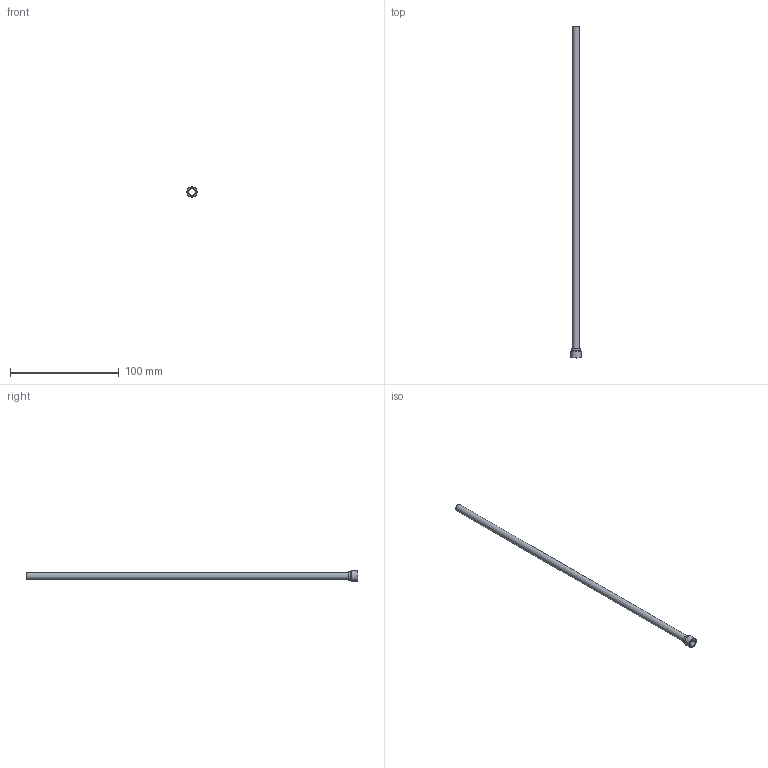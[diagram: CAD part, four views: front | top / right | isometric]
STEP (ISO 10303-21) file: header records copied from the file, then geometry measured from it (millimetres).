
FILE_DESCRIPTION(/* description */ (''),/* implementation_level */ '2;1');
FILE_NAME(/* name */ 'C:/Users/drich/Desktop/PT18-250-12 v1.step',/* time_stamp */ '2019-12-27T15:45:13-06:00',/* author */ (''),/* organization */ (''),/* preprocessor_version */ 'ST-DEVELOPER v18',/* originating_system */ 'Autodesk Translation Framework v8.12.0.6',/* authorisation */ '');
FILE_SCHEMA (('AUTOMOTIVE_DESIGN { 1 0 10303 214 3 1 1 }'));
Length unit declared in the file: inch
Products named in the file (1): PT18-250-12
Bounding box: 9.62 x 304.8 x 9.62 mm (x, y, z)
Volume: 1744.4 mm3; surface area: 11840.8 mm2
Topology: 1 solids, 1 shells, 19 faces, 48 edges, 34 vertices
Faces by surface type: plane 11, cylinder 4, torus 2, cone 2
Full cylindrical faces by diameter (mm): 5.842 x1, 6.35 x1, 7.925 x1, 9.621 x1
Entity records: 633 total; most frequent: DIRECTION 112, CARTESIAN_POINT 102, ORIENTED_EDGE 96, EDGE_CURVE 48, AXIS2_PLACEMENT_3D 44, VERTEX_POINT 34, CIRCLE 24, EDGE_LOOP 24
